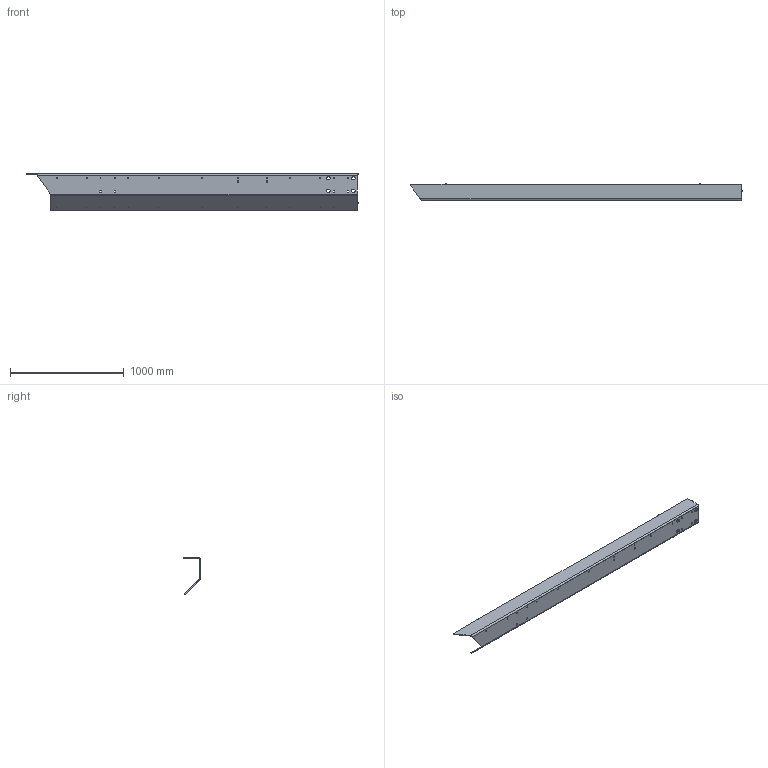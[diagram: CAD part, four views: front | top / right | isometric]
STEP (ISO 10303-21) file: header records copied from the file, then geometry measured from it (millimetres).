
FILE_DESCRIPTION(/* description */ (''),/* implementation_level */ '2;1');
FILE_NAME(/* name */ '6488526ugm000~01.stp',/* time_stamp */ '2023-05-09T17:03:25+02:00',/* author */ (''),/* organization */ (''),/* preprocessor_version */ 'ST-DEVELOPER v18.1',/* originating_system */ 'SIEMENS PLM Software NX 2000',/* authorisation */ '');
FILE_SCHEMA (('AUTOMOTIVE_DESIGN { 1 0 10303 214 0 1 1 1 }'));
Length unit declared in the file: millimetre
Products named in the file (1): 6488526ugm000~01
Bounding box: 2913.98 x 146 x 320.76 mm (x, y, z)
Volume: 8293699.8 mm3; surface area: 2814644 mm2
Topology: 1 solids, 1 shells, 329 faces, 975 edges, 648 vertices
Faces by surface type: plane 166, cylinder 160, bspline 3
Entity records: 11358 total; most frequent: CARTESIAN_POINT 2100, ORIENTED_EDGE 1950, DIRECTION 1933, EDGE_CURVE 975, VERTEX_POINT 648, LINE 647, VECTOR 647, AXIS2_PLACEMENT_3D 643
